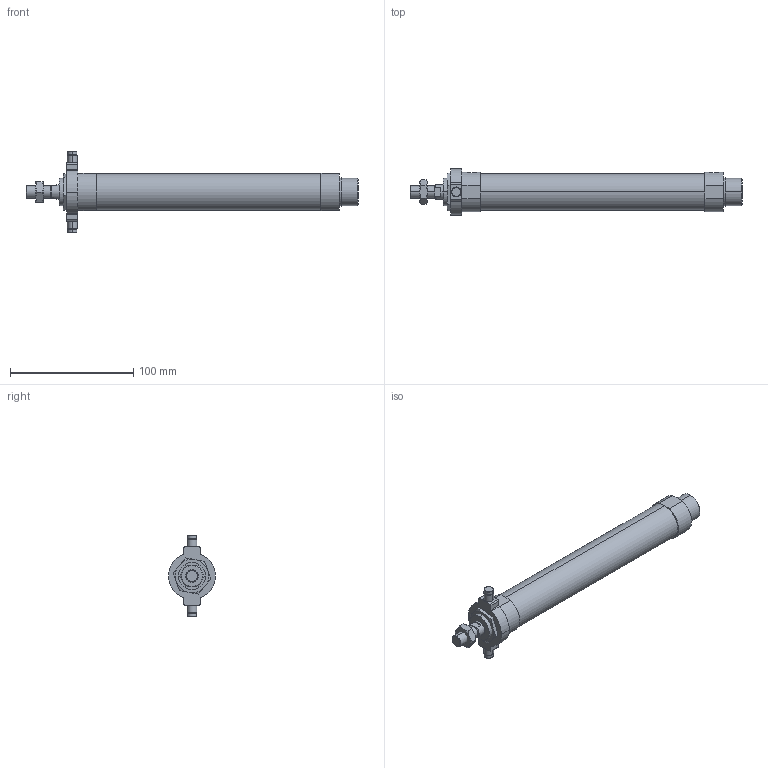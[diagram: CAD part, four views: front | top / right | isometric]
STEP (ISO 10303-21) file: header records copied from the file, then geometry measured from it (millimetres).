
FILE_DESCRIPTION (( 'STEP AP203' ), '1' );
FILE_NAME ('J#2-25-150-T.STEP', '2016-03-08T07:28:18', ( '' ), ( '' ), 'SwSTEP 2.0', 'SolidWorks 2014', '' );
FILE_SCHEMA (( 'CONFIG_CONTROL_DESIGN' ));
Length unit declared in the file: millimetre
Products named in the file (5): J#2-25-T; J#2-25-150; J#2-25-150-T
Assembly tree (4 placements, depth 2):
  J#2-25-150-T
    J#2-25-150
    (unnamed)
    J#2-25-T
    (unnamed)
Bounding box: 269 x 38 x 66 mm (x, y, z)
Volume: 174083.9 mm3; surface area: 32086.7 mm2
Topology: 4 solids, 4 shells, 136 faces, 307 edges, 184 vertices
Faces by surface type: cylinder 47, plane 47, torus 24, cone 18
Entity records: 4590 total; most frequent: CARTESIAN_POINT 1054, DIRECTION 661, ORIENTED_EDGE 606, EDGE_CURVE 303, AXIS2_PLACEMENT_3D 271, VERTEX_POINT 184, EDGE_LOOP 151, FACE_OUTER_BOUND 136
